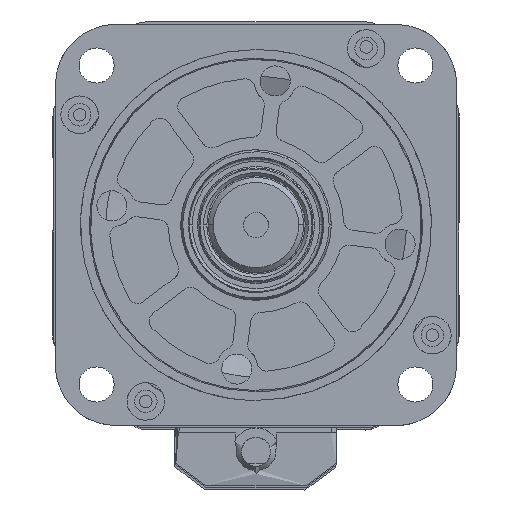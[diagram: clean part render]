
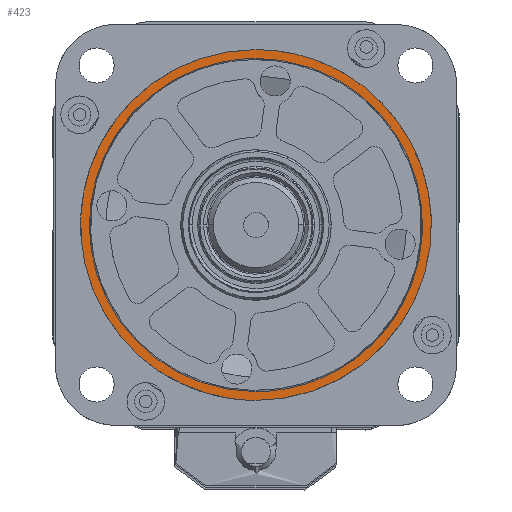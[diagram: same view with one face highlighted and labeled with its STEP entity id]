
A CAD part, left-side view. The second image highlights one B-rep face of the part: STEP entity #423.
In plain terms, the highlighted free-form (B-spline) face has degree [1, 1] with [2, 2] control points.
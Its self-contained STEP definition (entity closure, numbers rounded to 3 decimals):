
#423 = ADVANCED_FACE ( 'NONE', ( #22387, #2183 ), #3243, .F. ) ;
#937 =( BOUNDED_CURVE ( )  B_SPLINE_CURVE ( 3, ( #8477, #26066, #5960, #26159, #11023, #28671, #13617 ),
 .UNSPECIFIED., .F., .T. ) 
 B_SPLINE_CURVE_WITH_KNOTS ( ( 4, 3, 4 ),
 ( -3.142, -1.571, 0. ),
 .UNSPECIFIED. ) 
 CURVE ( )  GEOMETRIC_REPRESENTATION_ITEM ( )  RATIONAL_B_SPLINE_CURVE ( ( 1., 0.805, 0.805, 1., 0.805, 0.805, 1. ) ) 
 REPRESENTATION_ITEM ( '' )  );
#2183 = FACE_OUTER_BOUND ( 'NONE', #5377, .T. ) ;
#2301 =( BOUNDED_CURVE ( )  B_SPLINE_CURVE ( 3, ( #17811, #15366, #20443, #5253 ),
 .UNSPECIFIED., .F., .F. ) 
 B_SPLINE_CURVE_WITH_KNOTS ( ( 4, 4 ),
 ( -3.142, 0. ),
 .UNSPECIFIED. ) 
 CURVE ( )  GEOMETRIC_REPRESENTATION_ITEM ( )  RATIONAL_B_SPLINE_CURVE ( ( 1., 0.333, 0.333, 1. ) ) 
 REPRESENTATION_ITEM ( '' )  );
#2851 = CARTESIAN_POINT ( 'NONE',  ( -29.719, 17.587, -33.25 ) ) ;
#3243 = B_SPLINE_SURFACE_WITH_KNOTS ( 'NONE', 1, 1, ( 
 ( #17756, #18145 ),
 ( #5936, #18294 ) ),
 .UNSPECIFIED., .F., .F., .F.,
 ( 2, 2 ),
 ( 2, 2 ),
 ( 0., 1. ),
 ( 0., 1. ),
 .UNSPECIFIED. ) ;
#5253 = CARTESIAN_POINT ( 'NONE',  ( -29.719, -1.89, 35. ) ) ;
#5303 = CARTESIAN_POINT ( 'NONE',  ( -29.719, -1.89, -33.25 ) ) ;
#5377 = EDGE_LOOP ( 'NONE', ( #8436, #9125 ) ) ;
#5694 = CARTESIAN_POINT ( 'NONE',  ( -29.719, -1.89, -33.25 ) ) ;
#5936 = CARTESIAN_POINT ( 'NONE',  ( -29.719, -37.31, 35.42 ) ) ;
#5960 = CARTESIAN_POINT ( 'NONE',  ( -29.719, 33.11, 20.503 ) ) ;
#7941 = CARTESIAN_POINT ( 'NONE',  ( -29.719, 31.36, -19.477 ) ) ;
#8436 = ORIENTED_EDGE ( 'NONE', *, *, #19823, .F. ) ;
#8477 = CARTESIAN_POINT ( 'NONE',  ( -29.719, -1.89, 35. ) ) ;
#9125 = ORIENTED_EDGE ( 'NONE', *, *, #19537, .F. ) ;
#9274 = VERTEX_POINT ( 'NONE', #17444 ) ;
#9882 = CARTESIAN_POINT ( 'NONE',  ( -29.719, -68.39, 33.25 ) ) ;
#9983 = CARTESIAN_POINT ( 'NONE',  ( -29.719, -1.89, -33.25 ) ) ;
#10475 = CARTESIAN_POINT ( 'NONE',  ( -29.719, 31.36, 19.477 ) ) ;
#11023 = CARTESIAN_POINT ( 'NONE',  ( -29.719, 33.11, -20.503 ) ) ;
#13085 = CARTESIAN_POINT ( 'NONE',  ( -29.719, -1.89, 33.25 ) ) ;
#13617 = CARTESIAN_POINT ( 'NONE',  ( -29.719, -1.89, -35. ) ) ;
#13940 =( BOUNDED_CURVE ( )  B_SPLINE_CURVE ( 3, ( #5303, #2851, #7941, #25645, #10475, #28133, #13085 ),
 .UNSPECIFIED., .F., .F. ) 
 B_SPLINE_CURVE_WITH_KNOTS ( ( 4, 3, 4 ),
 ( -3.142, -1.571, 0. ),
 .UNSPECIFIED. ) 
 CURVE ( )  GEOMETRIC_REPRESENTATION_ITEM ( )  RATIONAL_B_SPLINE_CURVE ( ( 1., 0.805, 0.805, 1., 0.805, 0.805, 1. ) ) 
 REPRESENTATION_ITEM ( '' )  );
#14473 = ORIENTED_EDGE ( 'NONE', *, *, #28581, .F. ) ;
#15030 = ORIENTED_EDGE ( 'NONE', *, *, #24241, .F. ) ;
#15366 = CARTESIAN_POINT ( 'NONE',  ( -29.719, -71.89, -35. ) ) ;
#16553 = VERTEX_POINT ( 'NONE', #5694 ) ;
#17444 = CARTESIAN_POINT ( 'NONE',  ( -29.719, -1.89, 33.25 ) ) ;
#17756 = CARTESIAN_POINT ( 'NONE',  ( -29.719, -37.31, -35.42 ) ) ;
#17811 = CARTESIAN_POINT ( 'NONE',  ( -29.719, -1.89, -35. ) ) ;
#18145 = CARTESIAN_POINT ( 'NONE',  ( -29.719, 33.53, -35.42 ) ) ;
#18294 = CARTESIAN_POINT ( 'NONE',  ( -29.719, 33.53, 35.42 ) ) ;
#19417 = CARTESIAN_POINT ( 'NONE',  ( -29.719, -1.89, -35. ) ) ;
#19537 = EDGE_CURVE ( 'NONE', #27880, #24542, #937, .T. ) ;
#19823 = EDGE_CURVE ( 'NONE', #24542, #27880, #2301, .T. ) ;
#20443 = CARTESIAN_POINT ( 'NONE',  ( -29.719, -71.89, 35. ) ) ;
#22387 = FACE_BOUND ( 'NONE', #31038, .T. ) ;
#22646 = CARTESIAN_POINT ( 'NONE',  ( -29.719, -1.89, 33.25 ) ) ;
#24241 = EDGE_CURVE ( 'NONE', #9274, #16553, #25799, .T. ) ;
#24542 = VERTEX_POINT ( 'NONE', #19417 ) ;
#25169 = CARTESIAN_POINT ( 'NONE',  ( -29.719, -68.39, -33.25 ) ) ;
#25645 = CARTESIAN_POINT ( 'NONE',  ( -29.719, 31.36, 0. ) ) ;
#25799 =( BOUNDED_CURVE ( )  B_SPLINE_CURVE ( 3, ( #22646, #9882, #25169, #9983 ),
 .UNSPECIFIED., .F., .F. ) 
 B_SPLINE_CURVE_WITH_KNOTS ( ( 4, 4 ),
 ( -3.142, 0. ),
 .UNSPECIFIED. ) 
 CURVE ( )  GEOMETRIC_REPRESENTATION_ITEM ( )  RATIONAL_B_SPLINE_CURVE ( ( 1., 0.333, 0.333, 1. ) ) 
 REPRESENTATION_ITEM ( '' )  );
#25829 = CARTESIAN_POINT ( 'NONE',  ( -29.719, -1.89, 35. ) ) ;
#26066 = CARTESIAN_POINT ( 'NONE',  ( -29.719, 18.612, 35. ) ) ;
#26159 = CARTESIAN_POINT ( 'NONE',  ( -29.719, 33.11, 0. ) ) ;
#27880 = VERTEX_POINT ( 'NONE', #25829 ) ;
#28133 = CARTESIAN_POINT ( 'NONE',  ( -29.719, 17.587, 33.25 ) ) ;
#28581 = EDGE_CURVE ( 'NONE', #16553, #9274, #13940, .T. ) ;
#28671 = CARTESIAN_POINT ( 'NONE',  ( -29.719, 18.612, -35. ) ) ;
#31038 = EDGE_LOOP ( 'NONE', ( #14473, #15030 ) ) ;
